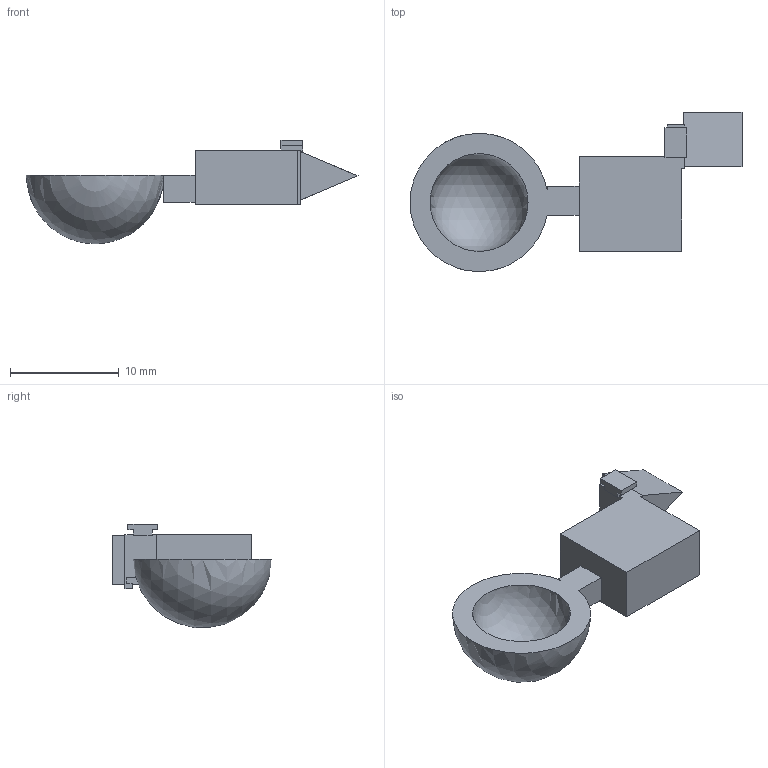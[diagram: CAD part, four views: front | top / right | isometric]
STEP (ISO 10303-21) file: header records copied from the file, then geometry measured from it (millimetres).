
FILE_DESCRIPTION(/* description */ ('STEP AP242 Edition 2','CAx-IF Rec.Pracs.---Representation and Presentation of Product Manufacturing Information (PMI)---4.0---2014-10-13','CAx-IF Rec.Pracs.---3D Tessellated Geometry---0.4---2014-09-14','2;1','CAx-IF Rec.Pracs.---User Defined Attributes---1.5---2016-08-15'),/* implementation_level */ '2;1');
FILE_NAME(/* name */ 'Part Studio 1 - Marble collector',/* time_stamp */ '2026-10-19T00:09:51Z',/* author */ (''),/* organization */ (''),/* preprocessor_version */ 'ST-DEVELOPER v20',/* originating_system */ 'ONSHAPE BY PTC INC, 1.222',/* authorisation */ ' ');
FILE_SCHEMA (('AP242_MANAGED_MODEL_BASED_3D_ENGINEERING_MIM_LF { 1 0 10303 442 3 1 4 }'));
Length unit declared in the file: metre
Products named in the file (1): Marble collector
Bounding box: 30.55 x 14.65 x 9.52 mm (x, y, z)
Volume: 863.2 mm3; surface area: 946.2 mm2
Topology: 1 solids, 1 shells, 46 faces, 133 edges, 87 vertices
Faces by surface type: plane 44, sphere 2
Entity records: 1455 total; most frequent: CARTESIAN_POINT 257, ORIENTED_EDGE 252, DIRECTION 223, EDGE_CURVE 126, LINE 123, VECTOR 123, VERTEX_POINT 84, AXIS2_PLACEMENT_3D 50
